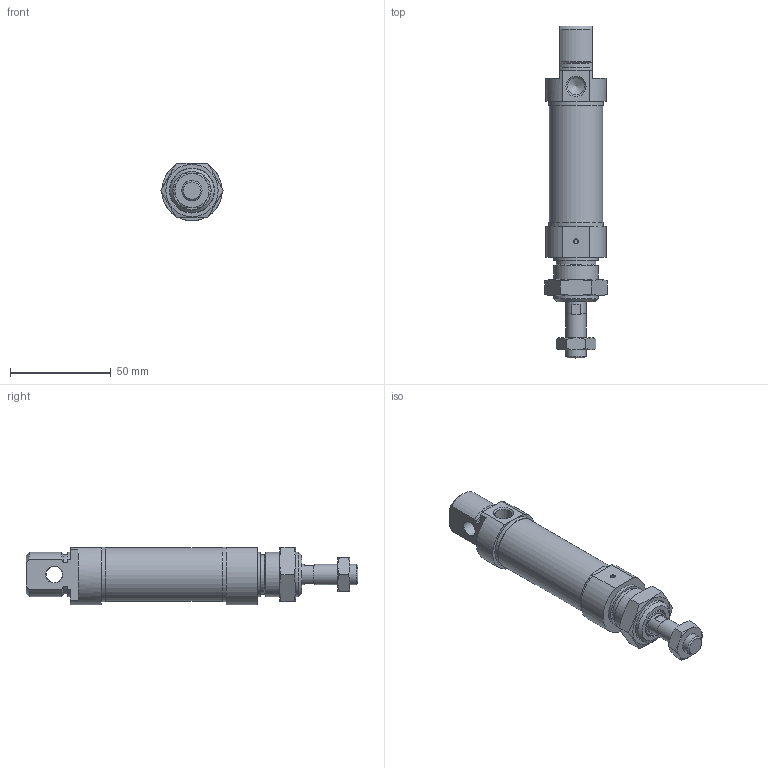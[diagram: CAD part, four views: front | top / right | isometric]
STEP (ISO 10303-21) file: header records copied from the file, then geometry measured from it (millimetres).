
FILE_DESCRIPTION(/* description */ ('Unknown'),/* implementation_level */ '2;1');
FILE_NAME(/* name */ 'REM 25_25',/* time_stamp */ '2024-08-28T08:18:51+02:00',/* author */ ('Unknown'),/* organization */ ('Unknown'),/* preprocessor_version */ 'ST-DEVELOPER v16.7',/* originating_system */ 'Solid Edge',/* authorisation */ 'Unknown');
FILE_SCHEMA (('AUTOMOTIVE_DESIGN {1 0 10303 214 3 1 1}'));
Length unit declared in the file: millimetre
Products named in the file (7): REM 25_25; Profilrohr; Kolbenstange; Kit_1; Kit_2; Mutter_1; Mutter_2
Assembly tree (6 placements, depth 2):
  REM 25_25
    Profilrohr
    Kolbenstange
    Kit_1
    Kit_2
    Mutter_1
    Mutter_2
Bounding box: 31.18 x 165 x 28.45 mm (x, y, z)
Volume: 65597 mm3; surface area: 28750.1 mm2
Topology: 6 solids, 7 shells, 114 faces, 250 edges, 156 vertices
Faces by surface type: plane 49, cone 37, cylinder 28
Full cylindrical faces by diameter (mm): 2 x1, 8 x1, 8.56 x1, 8.566 x1, 8.647 x1, 10 x3, 14 x2, 19.7 x1, 20.376 x1, 22 x2, 25 x2, 26.5 x1, 27 x2
Entity records: 3727 total; most frequent: CARTESIAN_POINT 572, DIRECTION 492, ORIENTED_EDGE 402, AXIS2_PLACEMENT_3D 215, EDGE_CURVE 201, FACE_BOUND 171, EDGE_LOOP 170, VERTEX_POINT 148
